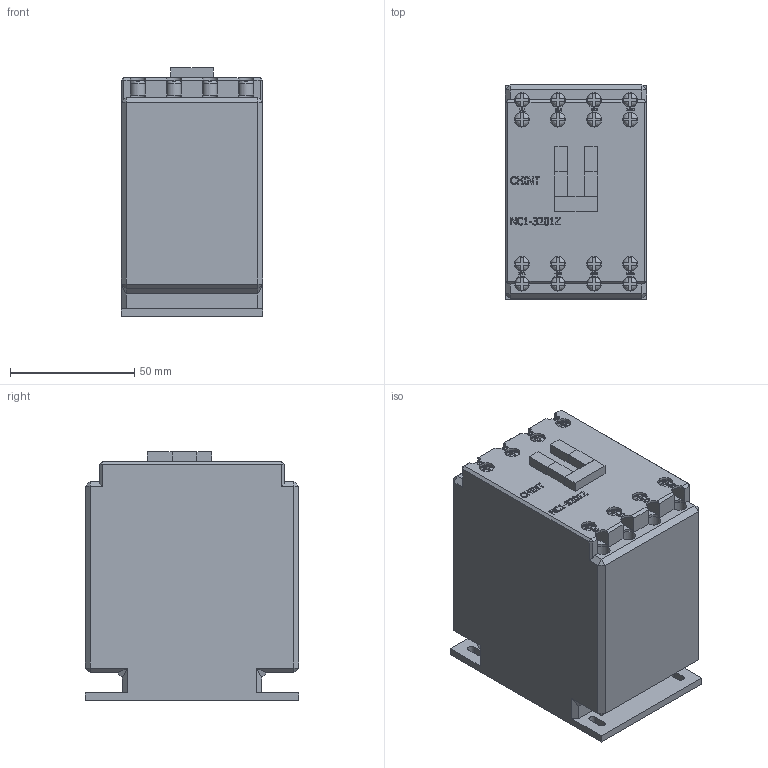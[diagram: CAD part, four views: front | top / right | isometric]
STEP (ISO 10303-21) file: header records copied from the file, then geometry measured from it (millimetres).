
FILE_DESCRIPTION(/* description */ (''),/* implementation_level */ '2;1');
FILE_NAME(/* name */ 'D:\CHINT2\NC1\NC1-3201Z 230В 50.stp',/* time_stamp */ '2017-11-12T20:23:04+03:00',/* author */ ('RSagdiev'),/* organization */ (''),/* preprocessor_version */ 'ST-DEVELOPER v16.5',/* originating_system */ 'Autodesk Inventor 2017',/* authorisation */ '');
FILE_SCHEMA (('AUTOMOTIVE_DESIGN { 1 0 10303 214 3 1 1 }'));
Length unit declared in the file: millimetre
Products named in the file (1): NC1-3201 230В 50
Bounding box: 57 x 86 x 100 mm (x, y, z)
Volume: 446934.2 mm3; surface area: 45112.2 mm2
Topology: 19 solids, 19 shells, 1080 faces, 2846 edges, 1860 vertices
Faces by surface type: plane 785, bspline 247, cylinder 48
Full cylindrical faces by diameter (mm): 5.8 x8, 6 x16
Entity records: 35850 total; most frequent: CARTESIAN_POINT 10817, ORIENTED_EDGE 5644, DIRECTION 4184, EDGE_CURVE 2822, LINE 1928, VECTOR 1928, VERTEX_POINT 1860, EDGE_LOOP 1184
